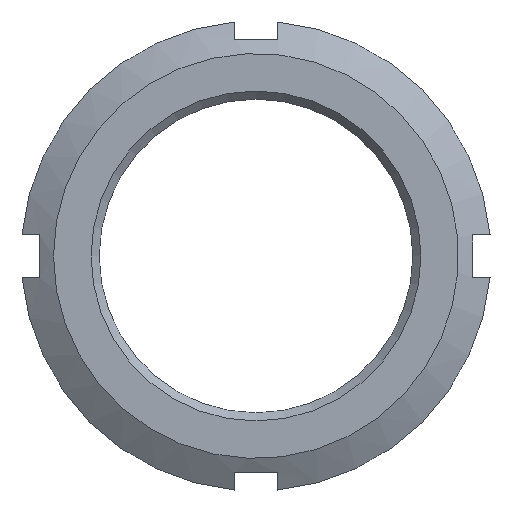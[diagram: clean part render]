
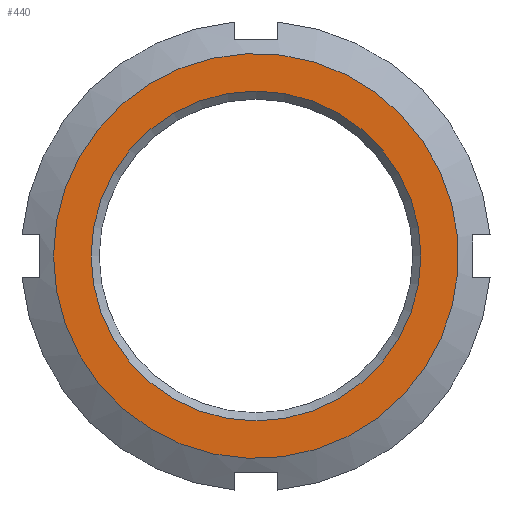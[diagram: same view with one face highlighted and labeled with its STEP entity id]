
A CAD part, left-side view. The second image highlights one B-rep face of the part: STEP entity #440.
In plain terms, the highlighted planar face has unit normal (-1, 0, 0).
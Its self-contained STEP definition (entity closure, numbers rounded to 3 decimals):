
#95=PLANE('',#471);
#116=FACE_BOUND('',#151,.T.);
#122=FACE_OUTER_BOUND('',#150,.T.);
#150=EDGE_LOOP('',(#309));
#151=EDGE_LOOP('',(#310));
#179=CIRCLE('',#468,22.813);
#181=CIRCLE('',#472,28.);
#196=VERTEX_POINT('',#629);
#198=VERTEX_POINT('',#635);
#241=EDGE_CURVE('',#196,#196,#179,.T.);
#243=EDGE_CURVE('',#198,#198,#181,.T.);
#309=ORIENTED_EDGE('',*,*,#243,.F.);
#310=ORIENTED_EDGE('',*,*,#241,.F.);
#440=ADVANCED_FACE('',(#122,#116),#95,.T.);
#468=AXIS2_PLACEMENT_3D('',#630,#515,#516);
#471=AXIS2_PLACEMENT_3D('',#634,#521,#522);
#472=AXIS2_PLACEMENT_3D('',#636,#523,#524);
#515=DIRECTION('center_axis',(-1.,0.,0.));
#516=DIRECTION('ref_axis',(0.,0.,-1.));
#521=DIRECTION('center_axis',(-1.,0.,0.));
#522=DIRECTION('ref_axis',(0.,0.,1.));
#523=DIRECTION('center_axis',(1.,0.,0.));
#524=DIRECTION('ref_axis',(0.,-1.,0.));
#629=CARTESIAN_POINT('',(0.,0.,22.813));
#630=CARTESIAN_POINT('Origin',(0.,0.,0.));
#634=CARTESIAN_POINT('Origin',(0.,16.25,0.));
#635=CARTESIAN_POINT('',(0.,28.,0.));
#636=CARTESIAN_POINT('Origin',(0.,0.,0.));
